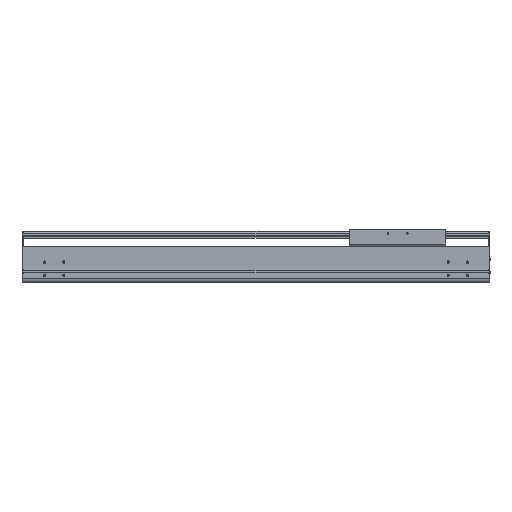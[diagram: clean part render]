
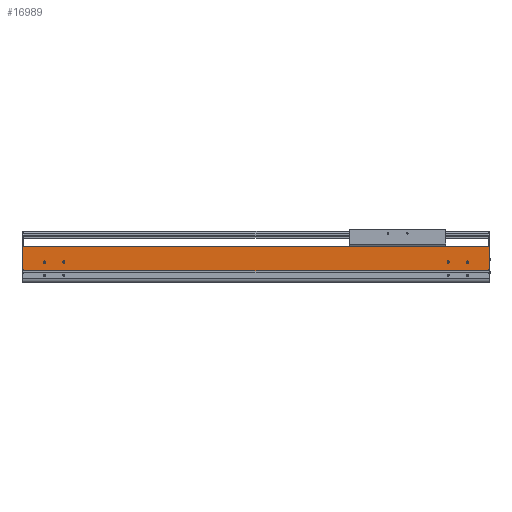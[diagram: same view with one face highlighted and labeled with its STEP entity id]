
A CAD part, top view. The second image highlights one B-rep face of the part: STEP entity #16989.
In plain terms, the highlighted planar face has unit normal (0, 0, 1).
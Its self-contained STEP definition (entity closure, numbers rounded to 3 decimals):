
#517=DIRECTION('',(0.,-1.,0.));
#518=VECTOR('',#517,2.55);
#519=CARTESIAN_POINT('',(0.,34.65,107.));
#520=LINE('',#519,#518);
#2142=DIRECTION('',(1.,0.,0.));
#2143=VECTOR('',#2142,2.);
#2144=CARTESIAN_POINT('',(0.,34.65,107.));
#2145=LINE('',#2144,#2143);
#2150=CARTESIAN_POINT('',(-54.5,54.,107.));
#2151=DIRECTION('',(0.,0.,-1.));
#2152=DIRECTION('',(1.,0.,0.));
#2153=AXIS2_PLACEMENT_3D('',#2150,#2151,#2152);
#2155=CARTESIAN_POINT('',(-54.5,54.,107.));
#2156=DIRECTION('',(0.,0.,-1.));
#2157=DIRECTION('',(-1.,0.,0.));
#2158=AXIS2_PLACEMENT_3D('',#2155,#2156,#2157);
#2160=CARTESIAN_POINT('',(-104.5,54.,107.));
#2161=DIRECTION('',(0.,0.,-1.));
#2162=DIRECTION('',(1.,0.,0.));
#2163=AXIS2_PLACEMENT_3D('',#2160,#2161,#2162);
#2165=CARTESIAN_POINT('',(-104.5,54.,107.));
#2166=DIRECTION('',(0.,0.,-1.));
#2167=DIRECTION('',(-1.,0.,0.));
#2168=AXIS2_PLACEMENT_3D('',#2165,#2166,#2167);
#2170=CARTESIAN_POINT('',(-1154.5,54.,107.));
#2171=DIRECTION('',(0.,0.,-1.));
#2172=DIRECTION('',(1.,0.,0.));
#2173=AXIS2_PLACEMENT_3D('',#2170,#2171,#2172);
#2175=CARTESIAN_POINT('',(-1154.5,54.,107.));
#2176=DIRECTION('',(0.,0.,-1.));
#2177=DIRECTION('',(-1.,0.,0.));
#2178=AXIS2_PLACEMENT_3D('',#2175,#2176,#2177);
#2180=CARTESIAN_POINT('',(-1104.5,54.,107.));
#2181=DIRECTION('',(0.,0.,-1.));
#2182=DIRECTION('',(1.,0.,0.));
#2183=AXIS2_PLACEMENT_3D('',#2180,#2181,#2182);
#2185=CARTESIAN_POINT('',(-1104.5,54.,107.));
#2186=DIRECTION('',(0.,0.,-1.));
#2187=DIRECTION('',(-1.,0.,0.));
#2188=AXIS2_PLACEMENT_3D('',#2185,#2186,#2187);
#2190=DIRECTION('',(0.,-1.,0.));
#2191=VECTOR('',#2190,2.55);
#2192=CARTESIAN_POINT('',(-1209.,34.65,107.));
#2193=LINE('',#2192,#2191);
#2194=DIRECTION('',(0.,-1.,0.));
#2195=VECTOR('',#2194,58.85);
#2196=CARTESIAN_POINT('',(-1211.,93.5,107.));
#2197=LINE('',#2196,#2195);
#2198=DIRECTION('',(0.,1.,0.));
#2199=VECTOR('',#2198,58.85);
#2200=CARTESIAN_POINT('',(2.,34.65,107.));
#2201=LINE('',#2200,#2199);
#2202=DIRECTION('',(1.,0.,0.));
#2203=VECTOR('',#2202,1209.);
#2204=CARTESIAN_POINT('',(-1209.,32.1,107.));
#2205=LINE('',#2204,#2203);
#2314=DIRECTION('',(1.,0.,0.));
#2315=VECTOR('',#2314,2.);
#2316=CARTESIAN_POINT('',(-1211.,34.65,107.));
#2317=LINE('',#2316,#2315);
#2326=DIRECTION('',(-1.,0.,0.));
#2327=VECTOR('',#2326,1213.);
#2328=CARTESIAN_POINT('',(2.,93.5,107.));
#2329=LINE('',#2328,#2327);
#11309=CARTESIAN_POINT('',(-1211.,34.65,107.));
#11310=VERTEX_POINT('',#11309);
#11311=CARTESIAN_POINT('',(-1211.,93.5,107.));
#11312=VERTEX_POINT('',#11311);
#11541=CARTESIAN_POINT('',(-1209.,32.1,107.));
#11542=VERTEX_POINT('',#11541);
#12031=CARTESIAN_POINT('',(0.,32.1,107.));
#12032=VERTEX_POINT('',#12031);
#12033=CARTESIAN_POINT('',(-52.,54.,107.));
#12034=CARTESIAN_POINT('',(-57.,54.,107.));
#12035=VERTEX_POINT('',#12033);
#12036=VERTEX_POINT('',#12034);
#12037=CARTESIAN_POINT('',(-102.,54.,107.));
#12038=CARTESIAN_POINT('',(-107.,54.,107.));
#12039=VERTEX_POINT('',#12037);
#12040=VERTEX_POINT('',#12038);
#12041=CARTESIAN_POINT('',(-1152.,54.,107.));
#12042=CARTESIAN_POINT('',(-1157.,54.,107.));
#12043=VERTEX_POINT('',#12041);
#12044=VERTEX_POINT('',#12042);
#12045=CARTESIAN_POINT('',(-1102.,54.,107.));
#12046=CARTESIAN_POINT('',(-1107.,54.,107.));
#12047=VERTEX_POINT('',#12045);
#12048=VERTEX_POINT('',#12046);
#13118=CARTESIAN_POINT('',(2.,34.65,107.));
#13119=VERTEX_POINT('',#13118);
#13120=CARTESIAN_POINT('',(2.,93.5,107.));
#13121=VERTEX_POINT('',#13120);
#13464=CARTESIAN_POINT('',(0.,34.65,107.));
#13465=VERTEX_POINT('',#13464);
#13652=CARTESIAN_POINT('',(-1209.,34.65,107.));
#13653=VERTEX_POINT('',#13652);
#16947=CARTESIAN_POINT('',(-604.5,62.8,107.));
#16948=DIRECTION('',(0.,0.,1.));
#16949=DIRECTION('',(0.,-1.,0.));
#16950=AXIS2_PLACEMENT_3D('',#16947,#16948,#16949);
#16951=PLANE('',#16950);
#16952=ORIENTED_EDGE('',*,*,#14436,.F.);
#16954=ORIENTED_EDGE('',*,*,#16953,.F.);
#16955=ORIENTED_EDGE('',*,*,#15535,.F.);
#16957=ORIENTED_EDGE('',*,*,#16956,.F.);
#16958=ORIENTED_EDGE('',*,*,#16745,.F.);
#16959=ORIENTED_EDGE('',*,*,#16940,.F.);
#16960=ORIENTED_EDGE('',*,*,#15051,.T.);
#16962=ORIENTED_EDGE('',*,*,#16961,.F.);
#16963=EDGE_LOOP('',(#16952,#16954,#16955,#16957,#16958,#16959,#16960,#16962));
#16964=FACE_OUTER_BOUND('',#16963,.F.);
#16966=ORIENTED_EDGE('',*,*,#16965,.F.);
#16968=ORIENTED_EDGE('',*,*,#16967,.F.);
#16969=EDGE_LOOP('',(#16966,#16968));
#16970=FACE_BOUND('',#16969,.F.);
#16972=ORIENTED_EDGE('',*,*,#16971,.F.);
#16974=ORIENTED_EDGE('',*,*,#16973,.F.);
#16975=EDGE_LOOP('',(#16972,#16974));
#16976=FACE_BOUND('',#16975,.F.);
#16978=ORIENTED_EDGE('',*,*,#16977,.F.);
#16980=ORIENTED_EDGE('',*,*,#16979,.F.);
#16981=EDGE_LOOP('',(#16978,#16980));
#16982=FACE_BOUND('',#16981,.F.);
#16984=ORIENTED_EDGE('',*,*,#16983,.F.);
#16986=ORIENTED_EDGE('',*,*,#16985,.F.);
#16987=EDGE_LOOP('',(#16984,#16986));
#16988=FACE_BOUND('',#16987,.F.);
#16989=ADVANCED_FACE('',(#16964,#16970,#16976,#16982,#16988),#16951,.T.);
#2154=CIRCLE('',#2153,2.5);
#2159=CIRCLE('',#2158,2.5);
#2164=CIRCLE('',#2163,2.5);
#2169=CIRCLE('',#2168,2.5);
#2174=CIRCLE('',#2173,2.5);
#2179=CIRCLE('',#2178,2.5);
#2184=CIRCLE('',#2183,2.5);
#2189=CIRCLE('',#2188,2.5);
#14436=EDGE_CURVE('',#13653,#11542,#2193,.T.);
#15051=EDGE_CURVE('',#13465,#12032,#520,.T.);
#15535=EDGE_CURVE('',#11312,#11310,#2197,.T.);
#16745=EDGE_CURVE('',#13119,#13121,#2201,.T.);
#16940=EDGE_CURVE('',#13465,#13119,#2145,.T.);
#16953=EDGE_CURVE('',#11310,#13653,#2317,.T.);
#16956=EDGE_CURVE('',#13121,#11312,#2329,.T.);
#16961=EDGE_CURVE('',#11542,#12032,#2205,.T.);
#16965=EDGE_CURVE('',#12039,#12040,#2164,.T.);
#16967=EDGE_CURVE('',#12040,#12039,#2169,.T.);
#16971=EDGE_CURVE('',#12043,#12044,#2174,.T.);
#16973=EDGE_CURVE('',#12044,#12043,#2179,.T.);
#16977=EDGE_CURVE('',#12047,#12048,#2184,.T.);
#16979=EDGE_CURVE('',#12048,#12047,#2189,.T.);
#16983=EDGE_CURVE('',#12035,#12036,#2154,.T.);
#16985=EDGE_CURVE('',#12036,#12035,#2159,.T.);
